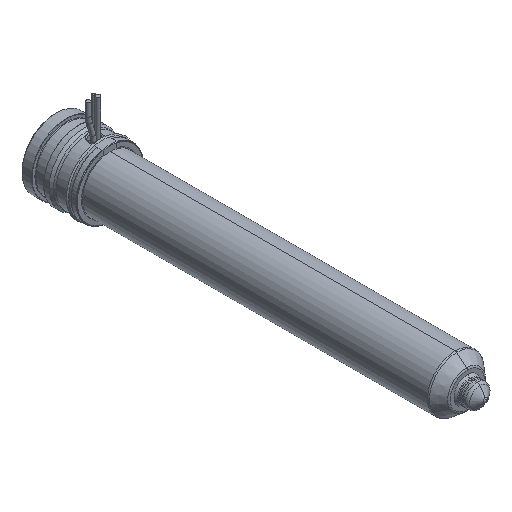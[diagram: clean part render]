
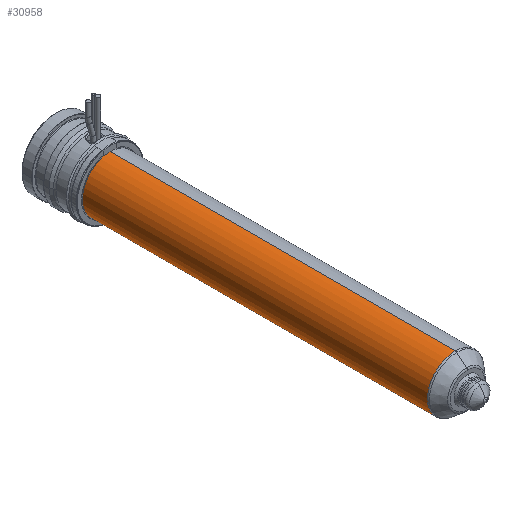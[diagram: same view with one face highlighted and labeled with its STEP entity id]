
A CAD part, isometric view. The second image highlights one B-rep face of the part: STEP entity #30958.
In plain terms, the highlighted cylindrical face has radius 12 mm (diameter 24 mm), a partial arc.
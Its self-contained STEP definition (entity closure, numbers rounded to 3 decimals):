
#30443=CARTESIAN_POINT('',(0.,-24.,0.));
#30444=DIRECTION('',(0.,1.,0.));
#30445=DIRECTION('',(0.,0.,-1.));
#30446=AXIS2_PLACEMENT_3D('',#30443,#30444,#30445);
#30451=DIRECTION('',(0.,1.,0.));
#30452=VECTOR('',#30451,149.736);
#30453=CARTESIAN_POINT('',(0.,-173.736,12.));
#30454=LINE('',#30453,#30452);
#30466=DIRECTION('',(0.,1.,0.));
#30467=VECTOR('',#30466,149.736);
#30468=CARTESIAN_POINT('',(0.,-173.736,-12.));
#30469=LINE('',#30468,#30467);
#30497=CARTESIAN_POINT('',(0.,-173.736,0.));
#30498=DIRECTION('',(0.,-1.,0.));
#30499=DIRECTION('',(0.,0.,1.));
#30500=AXIS2_PLACEMENT_3D('',#30497,#30498,#30499);
#30827=CARTESIAN_POINT('',(0.,-173.736,12.));
#30828=CARTESIAN_POINT('',(0.,-24.,12.));
#30829=VERTEX_POINT('',#30827);
#30830=VERTEX_POINT('',#30828);
#30831=CARTESIAN_POINT('',(0.,-173.736,-12.));
#30832=CARTESIAN_POINT('',(0.,-24.,-12.));
#30833=VERTEX_POINT('',#30831);
#30834=VERTEX_POINT('',#30832);
#30944=CARTESIAN_POINT('',(0.,-11.625,0.));
#30945=DIRECTION('',(0.,-1.,0.));
#30946=DIRECTION('',(0.,0.,1.));
#30947=AXIS2_PLACEMENT_3D('',#30944,#30945,#30946);
#30948=CYLINDRICAL_SURFACE('',#30947,12.);
#30950=ORIENTED_EDGE('',*,*,#30949,.F.);
#30952=ORIENTED_EDGE('',*,*,#30951,.T.);
#30954=ORIENTED_EDGE('',*,*,#30953,.T.);
#30955=ORIENTED_EDGE('',*,*,#30937,.T.);
#30956=EDGE_LOOP('',(#30950,#30952,#30954,#30955));
#30957=FACE_OUTER_BOUND('',#30956,.F.);
#30958=ADVANCED_FACE('',(#30957),#30948,.T.);
#30447=CIRCLE('',#30446,12.);
#30501=CIRCLE('',#30500,12.);
#30937=EDGE_CURVE('',#30834,#30830,#30447,.T.);
#30949=EDGE_CURVE('',#30829,#30830,#30454,.T.);
#30951=EDGE_CURVE('',#30829,#30833,#30501,.T.);
#30953=EDGE_CURVE('',#30833,#30834,#30469,.T.);
